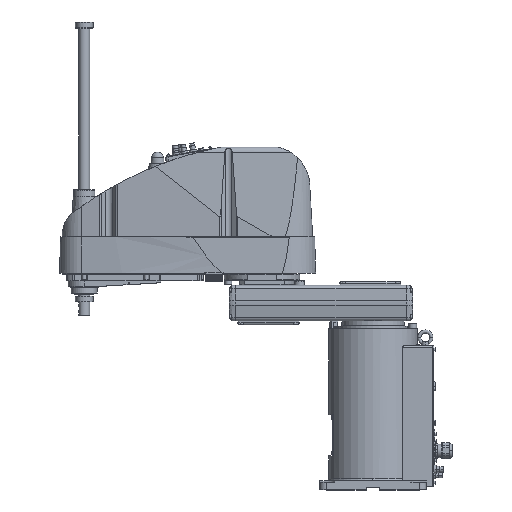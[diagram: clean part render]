
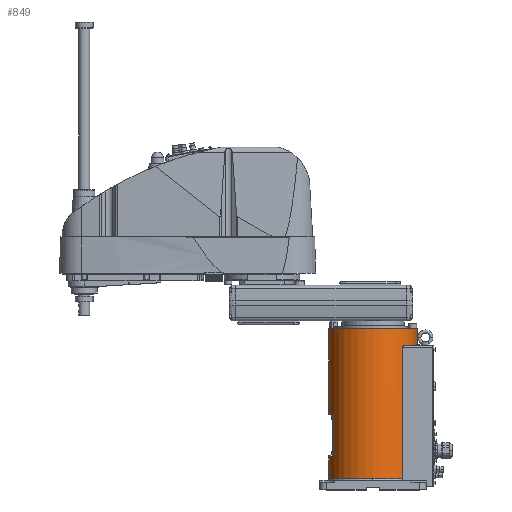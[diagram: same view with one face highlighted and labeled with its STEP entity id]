
A CAD part, top view. The second image highlights one B-rep face of the part: STEP entity #849.
In plain terms, the highlighted cylindrical face has radius 100 mm (diameter 200 mm), a partial arc.
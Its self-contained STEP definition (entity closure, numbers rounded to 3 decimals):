
#849 = ADVANCED_FACE( '', ( #3499 ), #3500, .T. );
#3499 = FACE_OUTER_BOUND( '', #7608, .T. );
#3500 = CYLINDRICAL_SURFACE( '', #7609, 100. );
#7608 = EDGE_LOOP( '', ( #15280, #15281, #15282, #15283, #15284, #15285, #15286, #15287, #15288, #15289, #15290, #15291, #15292, #15293, #15294, #15295 ) );
#7609 = AXIS2_PLACEMENT_3D( '', #15296, #15297, #15298 );
#15280 = ORIENTED_EDGE( '', *, *, #25611, .T. );
#15281 = ORIENTED_EDGE( '', *, *, #26332, .F. );
#15282 = ORIENTED_EDGE( '', *, *, #25625, .T. );
#15283 = ORIENTED_EDGE( '', *, *, #26467, .T. );
#15284 = ORIENTED_EDGE( '', *, *, #26465, .T. );
#15285 = ORIENTED_EDGE( '', *, *, #26455, .T. );
#15286 = ORIENTED_EDGE( '', *, *, #25621, .T. );
#15287 = ORIENTED_EDGE( '', *, *, #25967, .T. );
#15288 = ORIENTED_EDGE( '', *, *, #25964, .T. );
#15289 = ORIENTED_EDGE( '', *, *, #26609, .T. );
#15290 = ORIENTED_EDGE( '', *, *, #26573, .T. );
#15291 = ORIENTED_EDGE( '', *, *, #26615, .T. );
#15292 = ORIENTED_EDGE( '', *, *, #27074, .T. );
#15293 = ORIENTED_EDGE( '', *, *, #27075, .T. );
#15294 = ORIENTED_EDGE( '', *, *, #27076, .T. );
#15295 = ORIENTED_EDGE( '', *, *, #27077, .T. );
#15296 = CARTESIAN_POINT( '', ( 0., 194., 0. ) );
#15297 = DIRECTION( '', ( 0., -1., 0. ) );
#15298 = DIRECTION( '', ( 1., 0., 0. ) );
#25611 = EDGE_CURVE( '', #30464, #30465, #30466, .T. );
#25621 = EDGE_CURVE( '', #30485, #30483, #30486, .T. );
#25625 = EDGE_CURVE( '', #30493, #30491, #30494, .T. );
#25964 = EDGE_CURVE( '', #31145, #31150, #31152, .T. );
#25967 = EDGE_CURVE( '', #30483, #31145, #31156, .T. );
#26332 = EDGE_CURVE( '', #30493, #30465, #31753, .T. );
#26455 = EDGE_CURVE( '', #31953, #30485, #31954, .T. );
#26465 = EDGE_CURVE( '', #31972, #31953, #31973, .T. );
#26467 = EDGE_CURVE( '', #30491, #31972, #31975, .T. );
#26573 = EDGE_CURVE( '', #32142, #32140, #32143, .T. );
#26609 = EDGE_CURVE( '', #31150, #32142, #32207, .T. );
#26615 = EDGE_CURVE( '', #32140, #32214, #32216, .T. );
#27074 = EDGE_CURVE( '', #32214, #32877, #32878, .T. );
#27075 = EDGE_CURVE( '', #32877, #32879, #32880, .T. );
#27076 = EDGE_CURVE( '', #32879, #32881, #32882, .T. );
#27077 = EDGE_CURVE( '', #32881, #30464, #32883, .T. );
#30464 = VERTEX_POINT( '', #38409 );
#30465 = VERTEX_POINT( '', #38410 );
#30466 = LINE( '', #38411, #38412 );
#30483 = VERTEX_POINT( '', #38449 );
#30485 = VERTEX_POINT( '', #38451 );
#30486 = LINE( '', #38452, #38453 );
#30491 = VERTEX_POINT( '', #38459 );
#30493 = VERTEX_POINT( '', #38461 );
#30494 = LINE( '', #38462, #38463 );
#31145 = VERTEX_POINT( '', #39314 );
#31150 = VERTEX_POINT( '', #39319 );
#31152 = CIRCLE( '', #39348, 100. );
#31156 = CIRCLE( '', #39352, 100. );
#31753 = CIRCLE( '', #40281, 100. );
#31953 = VERTEX_POINT( '', #40594 );
#31954 = CIRCLE( '', #40595, 100. );
#31972 = VERTEX_POINT( '', #40622 );
#31973 = LINE( '', #40623, #40624 );
#31975 = CIRCLE( '', #40627, 100. );
#32140 = VERTEX_POINT( '', #40882 );
#32142 = VERTEX_POINT( '', #40885 );
#32143 = B_SPLINE_CURVE_WITH_KNOTS( '', 3, ( #40886, #40887, #40888, #40889, #40890, #40891, #40892, #40893, #40894, #40895, #40896, #40897, #40898, #40899, #40900, #40901, #40902, #40903 ), .UNSPECIFIED., .F., .F., ( 4, 2, 2, 2, 2, 2, 2, 2, 4 ), ( 14.722, 15.472, 16.222, 16.971, 17.721, 18.842, 19.962, 21.082, 22.202 ), .UNSPECIFIED. );
#32207 = LINE( '', #41001, #41002 );
#32214 = VERTEX_POINT( '', #41013 );
#32216 = CIRCLE( '', #41016, 100. );
#32877 = VERTEX_POINT( '', #42037 );
#32878 = LINE( '', #42038, #42039 );
#32879 = VERTEX_POINT( '', #42040 );
#32880 = CIRCLE( '', #42041, 100. );
#32881 = VERTEX_POINT( '', #42042 );
#32882 = LINE( '', #42043, #42044 );
#32883 = CIRCLE( '', #42045, 100. );
#38409 = CARTESIAN_POINT( '', ( 100., 324., 0. ) );
#38410 = CARTESIAN_POINT( '', ( 100., 363., 0. ) );
#38411 = CARTESIAN_POINT( '', ( 100., 194., 0. ) );
#38412 = VECTOR( '', #51004, 1. );
#38449 = CARTESIAN_POINT( '', ( -100., 25., 0. ) );
#38451 = CARTESIAN_POINT( '', ( -100., 76.7, 0. ) );
#38452 = CARTESIAN_POINT( '', ( -100., 194., 0. ) );
#38453 = VECTOR( '', #51023, 1. );
#38459 = CARTESIAN_POINT( '', ( -100., 169.7, 0. ) );
#38461 = CARTESIAN_POINT( '', ( -100., 363., 0. ) );
#38462 = CARTESIAN_POINT( '', ( -100., 194., 0. ) );
#38463 = VECTOR( '', #51031, 1. );
#39314 = CARTESIAN_POINT( '', ( 0., 25., 100. ) );
#39319 = CARTESIAN_POINT( '', ( 66.144, 25., 75. ) );
#39348 = AXIS2_PLACEMENT_3D( '', #51721, #51722, #51723 );
#39352 = AXIS2_PLACEMENT_3D( '', #51730, #51731, #51732 );
#40281 = AXIS2_PLACEMENT_3D( '', #52161, #52162, #52163 );
#40594 = CARTESIAN_POINT( '', ( -88., 76.7, 47.497 ) );
#40595 = AXIS2_PLACEMENT_3D( '', #52355, #52356, #52357 );
#40622 = CARTESIAN_POINT( '', ( -88., 169.7, 47.497 ) );
#40623 = CARTESIAN_POINT( '', ( -88., 123.2, 47.497 ) );
#40624 = VECTOR( '', #52367, 1. );
#40627 = AXIS2_PLACEMENT_3D( '', #52369, #52370, #52371 );
#40882 = CARTESIAN_POINT( '', ( 70.42, 324., 71. ) );
#40885 = CARTESIAN_POINT( '', ( 66.144, 320., 75. ) );
#40886 = CARTESIAN_POINT( '', ( 66.144, 320., 75. ) );
#40887 = CARTESIAN_POINT( '', ( 66.144, 320.25, 75. ) );
#40888 = CARTESIAN_POINT( '', ( 66.171, 320.503, 74.976 ) );
#40889 = CARTESIAN_POINT( '', ( 66.277, 320.995, 74.882 ) );
#40890 = CARTESIAN_POINT( '', ( 66.356, 321.234, 74.812 ) );
#40891 = CARTESIAN_POINT( '', ( 66.555, 321.685, 74.636 ) );
#40892 = CARTESIAN_POINT( '', ( 66.674, 321.897, 74.529 ) );
#40893 = CARTESIAN_POINT( '', ( 66.938, 322.284, 74.292 ) );
#40894 = CARTESIAN_POINT( '', ( 67.082, 322.458, 74.162 ) );
#40895 = CARTESIAN_POINT( '', ( 67.446, 322.842, 73.831 ) );
#40896 = CARTESIAN_POINT( '', ( 67.688, 323.046, 73.61 ) );
#40897 = CARTESIAN_POINT( '', ( 68.203, 323.396, 73.134 ) );
#40898 = CARTESIAN_POINT( '', ( 68.475, 323.543, 72.879 ) );
#40899 = CARTESIAN_POINT( '', ( 69.031, 323.776, 72.352 ) );
#40900 = CARTESIAN_POINT( '', ( 69.316, 323.861, 72.08 ) );
#40901 = CARTESIAN_POINT( '', ( 69.877, 323.974, 71.535 ) );
#40902 = CARTESIAN_POINT( '', ( 70.155, 324., 71.263 ) );
#40903 = CARTESIAN_POINT( '', ( 70.42, 324., 71. ) );
#41001 = CARTESIAN_POINT( '', ( 66.144, 172.5, 75. ) );
#41002 = VECTOR( '', #52542, 1. );
#41013 = CARTESIAN_POINT( '', ( 75.993, 324., 65. ) );
#41016 = AXIS2_PLACEMENT_3D( '', #52548, #52549, #52550 );
#42037 = CARTESIAN_POINT( '', ( 75.993, 326., 65. ) );
#42038 = CARTESIAN_POINT( '', ( 75.993, 325., 65. ) );
#42039 = VECTOR( '', #53375, 1. );
#42040 = CARTESIAN_POINT( '', ( 89.303, 326., 45. ) );
#42041 = AXIS2_PLACEMENT_3D( '', #53376, #53377, #53378 );
#42042 = CARTESIAN_POINT( '', ( 89.303, 324., 45. ) );
#42043 = CARTESIAN_POINT( '', ( 89.303, 325., 45. ) );
#42044 = VECTOR( '', #53379, 1. );
#42045 = AXIS2_PLACEMENT_3D( '', #53380, #53381, #53382 );
#51004 = DIRECTION( '', ( 0., 1., 0. ) );
#51023 = DIRECTION( '', ( 0., -1., 0. ) );
#51031 = DIRECTION( '', ( 0., -1., 0. ) );
#51721 = CARTESIAN_POINT( '', ( 0., 25., 0. ) );
#51722 = DIRECTION( '', ( 0., 1., 0. ) );
#51723 = DIRECTION( '', ( 1., 0., 0. ) );
#51730 = CARTESIAN_POINT( '', ( 0., 25., 0. ) );
#51731 = DIRECTION( '', ( 0., 1., 0. ) );
#51732 = DIRECTION( '', ( 1., 0., 0. ) );
#52161 = CARTESIAN_POINT( '', ( 0., 363., 0. ) );
#52162 = DIRECTION( '', ( 0., 1., 0. ) );
#52163 = DIRECTION( '', ( 1., 0., 0. ) );
#52355 = CARTESIAN_POINT( '', ( 0., 76.7, 0. ) );
#52356 = DIRECTION( '', ( 0., -1., 0. ) );
#52357 = DIRECTION( '', ( 1., 0., 0. ) );
#52367 = DIRECTION( '', ( 0., -1., 0. ) );
#52369 = CARTESIAN_POINT( '', ( 0., 169.7, 0. ) );
#52370 = DIRECTION( '', ( 0., 1., 0. ) );
#52371 = DIRECTION( '', ( 1., 0., 0. ) );
#52542 = DIRECTION( '', ( 0., 1., 0. ) );
#52548 = CARTESIAN_POINT( '', ( 0., 324., 0. ) );
#52549 = DIRECTION( '', ( 0., 1., 0. ) );
#52550 = DIRECTION( '', ( 1., 0., 0. ) );
#53375 = DIRECTION( '', ( 0., 1., 0. ) );
#53376 = CARTESIAN_POINT( '', ( 0., 326., 0. ) );
#53377 = DIRECTION( '', ( 0., 1., 0. ) );
#53378 = DIRECTION( '', ( 1., 0., 0. ) );
#53379 = DIRECTION( '', ( 0., -1., 0. ) );
#53380 = CARTESIAN_POINT( '', ( 0., 324., 0. ) );
#53381 = DIRECTION( '', ( 0., 1., 0. ) );
#53382 = DIRECTION( '', ( 1., 0., 0. ) );
